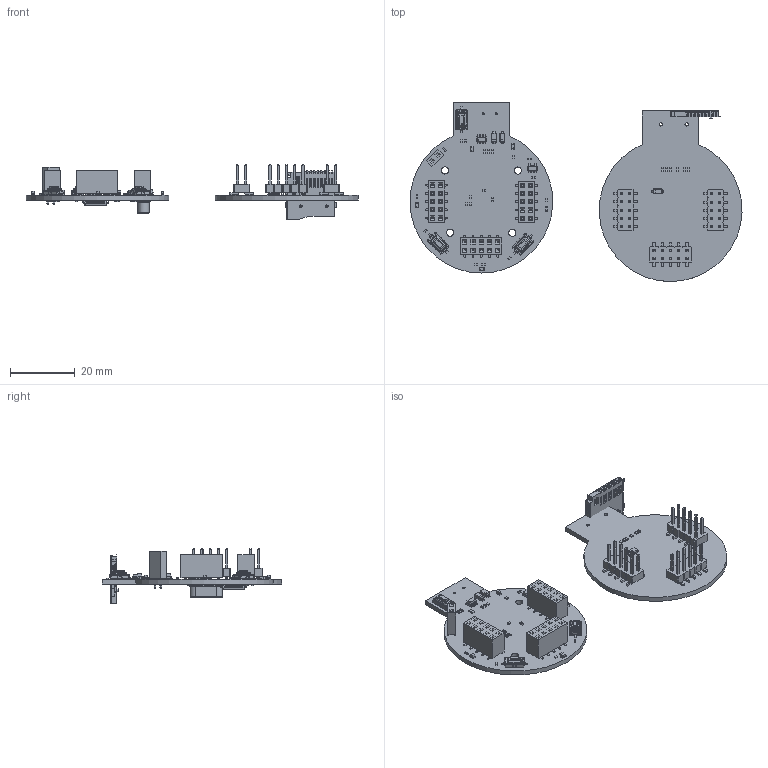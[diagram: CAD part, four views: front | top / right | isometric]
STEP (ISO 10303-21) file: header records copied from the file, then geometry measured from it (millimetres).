
FILE_DESCRIPTION(('KiCad electronic assembly'),'2;1');
FILE_NAME('project.step','2026-07-07T12:44:50',('Pcbnew'),('Kicad'), 'Open CASCADE STEP processor 7.8','KiCad to STEP converter','Unknown' );
FILE_SCHEMA(('AUTOMOTIVE_DESIGN { 1 0 10303 214 1 1 1 1 }'));
Length unit declared in the file: millimetre
Products named in the file (31): project 1; R_0402_1005Metric; R_0603_1608Metric; C_0402_1005Metric; LED_0603_1608Metric; PinHeader_2x05_P2.54mm_Vertical_SMD; PinHeader_2x05_P254mm_Vertical_SMD; SW_Tactile_SPST_NO_Straight_CK_PTS636Sx25SMTRLFS; PTS636Sx25SMTRLFS; PinSocket_1x02_P2.54mm_Vertical; SOT-23-6; SOT-23-5; D_SOD-123; PinSocket_2x05_P2.54mm_Vertical_SMD; MSD-1-A; SD-SMD_MLD-TF-PUSH-H18; LQFP-48_7x7mm_P0.5mm; Crystal_SMD_HC49-SD; kibot_yft89gyl_PCB_1; kibot_yft89gyl_PCB_2
Assembly tree (79 placements, depth 3):
  project 1
    R_0402_1005Metric  x23
      R_0402_1005Metric
    R_0603_1608Metric
      R_0603_1608Metric
    C_0402_1005Metric  x17
      C_0402_1005Metric
    LED_0603_1608Metric  x4
      LED_0603_1608Metric
    PinHeader_2x05_P2.54mm_Vertical_SMD  x3
      PinHeader_2x05_P254mm_Vertical_SMD
    SW_Tactile_SPST_NO_Straight_CK_PTS636Sx25SMTRLFS  x3
      PTS636Sx25SMTRLFS
    PinSocket_1x02_P2.54mm_Vertical
      PinSocket_1x02_P2.54mm_Vertical
    SOT-23-6
      SOT-23-6
    SOT-23-5
      SOT-23-5
    D_SOD-123  x3
      D_SOD-123
    PinSocket_2x05_P2.54mm_Vertical_SMD  x3
      PinSocket_2x05_P2.54mm_Vertical_SMD
    MSD-1-A
      SD-SMD_MLD-TF-PUSH-H18
    LQFP-48_7x7mm_P0.5mm
      LQFP-48_7x7mm_P0.5mm
    Crystal_SMD_HC49-SD
      Crystal_SMD_HC49-SD
    kibot_yft89gyl_PCB_1
    kibot_yft89gyl_PCB_2
Bounding box: 102.27 x 55.2 x 16.8 mm (x, y, z)
Volume: 7628.8 mm3; surface area: 12824.8 mm2
Topology: 97 solids, 97 shells, 5731 faces, 14810 edges, 9427 vertices
Faces by surface type: plane 4310, cylinder 1159, bspline 232, sphere 24, torus 6
Full cylindrical faces by diameter (mm): 0.65 x2, 1 x4, 2.2 x4
Entity records: 113524 total; most frequent: CARTESIAN_POINT 18292, ORIENTED_EDGE 15118, DIRECTION 13924, EDGE_CURVE 7559, LINE 6110, VECTOR 6110, VERTEX_POINT 4825, AXIS2_PLACEMENT_3D 3907
